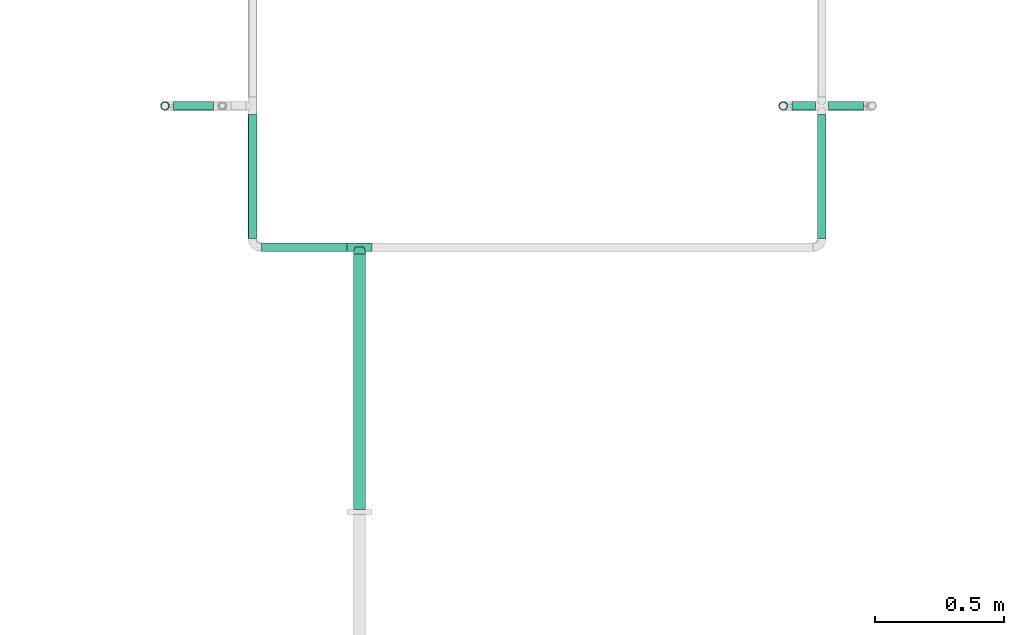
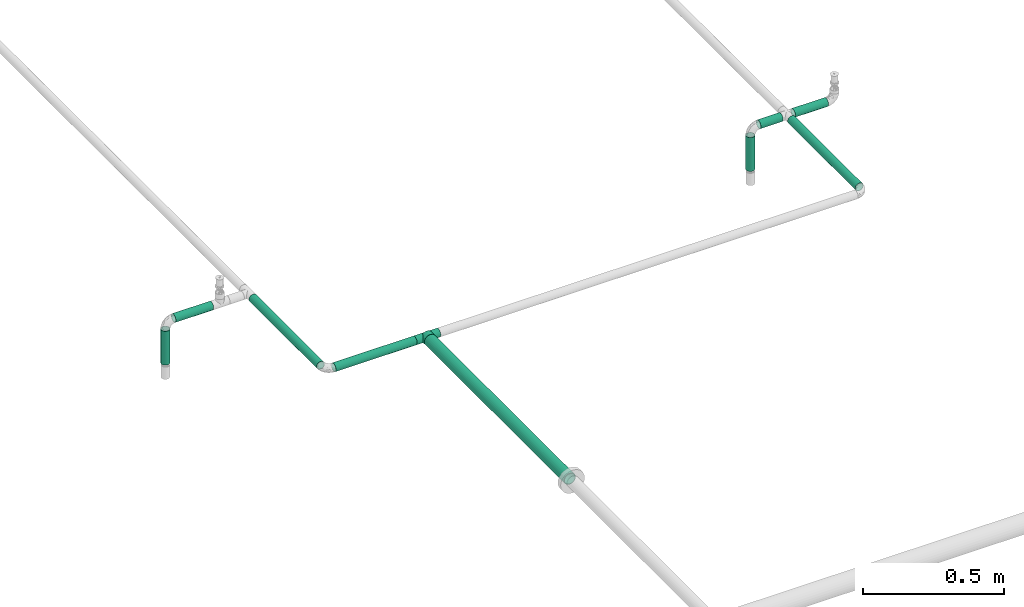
# One storey, part 23 of 157: 9 flow segments, 1 flow fitting.
"""IFC2X3 building model written with IfcOpenShell, lengths in millimetres."""

import ifcopenshell
import ifcopenshell.guid

model = None  # the IFC model being written
_history = None  # IfcOwnerHistory: only IFC2X3 demands one
_inside = {}  # id of a spatial element -> (the spatial element, [elements in it])
_under = {}  # id of a project, library or spatial element -> (it, [spatial elements below it])
_declared = {}  # id of a project -> (the project, [libraries it declares])
_typed = {}  # id of a type object -> (the type object, [elements of that type])
_made_of = {}  # id of a material, layer set ... -> (it, [elements and type objects made of it])


def new_model(schema):
    """Start an empty IFC model of exactly this schema.

    Asked for "IFC4X3", IfcOpenShell would pick the latest addendum, in which some entities
    have other attributes; the version numbers below select the first issue.
    IFC2X3 requires an IfcOwnerHistory on every rooted entity: one is made here for all.
    """
    global model, _history
    if schema == "IFC4X3":
        model = ifcopenshell.file(schema_version=(4, 3, 0, 0))
    else:
        model = ifcopenshell.file(schema=schema)
    _inside.clear()
    _under.clear()
    _declared.clear()
    _typed.clear()
    _made_of.clear()
    _history = None
    if model.schema == "IFC2X3":
        org = make("IfcOrganization", Name="unknown")
        user = make(
            "IfcPersonAndOrganization",
            ThePerson=make("IfcPerson", FamilyName="unknown"),
            TheOrganization=org,
        )
        app = make(
            "IfcApplication",
            ApplicationDeveloper=org,
            Version="unknown",
            ApplicationFullName="unknown",
            ApplicationIdentifier="unknown",
        )
        _history = make(
            "IfcOwnerHistory",
            OwningUser=user,
            OwningApplication=app,
            ChangeAction="ADDED",
            CreationDate=0,
        )
    return model


def make(cls, **values):
    """One entity of the class cls with the attributes given. An attribute that is None is left unset."""
    return model.create_entity(
        cls, **{name: value for name, value in values.items() if value is not None}
    )


def entity(cls, *values):
    """Any entity or typed value of the class cls, its attributes in the order of the schema. None: left unset."""
    e = model.create_entity(cls)
    for i, value in enumerate(values):
        if value is not None:
            e[i] = value
    return e


def rooted(cls, **values):
    """An entity with a GlobalId (a new one), such as an element, a storey or a relation."""
    return make(cls, GlobalId=ifcopenshell.guid.new(), OwnerHistory=_history, **values)


def si_unit(unit_type, name, prefix=None):
    """IfcSIUnit, for example si_unit("LENGTHUNIT", "METRE", prefix="MILLI")."""
    return make("IfcSIUnit", UnitType=unit_type, Prefix=prefix, Name=name)


def converted_unit(unit_type, name, factor, base, dimensions=None, offset=None):
    """IfcConversionBasedUnit, such as the inch: factor (a typed value) times the base unit."""
    return make(
        "IfcConversionBasedUnit"
        if offset is None
        else "IfcConversionBasedUnitWithOffset",
        ConversionOffset=offset,
        Dimensions=None
        if dimensions is None
        else entity("IfcDimensionalExponents", *dimensions),
        UnitType=unit_type,
        Name=name,
        ConversionFactor=make(
            "IfcMeasureWithUnit", ValueComponent=factor, UnitComponent=base
        ),
    )


def derived_unit(unit_type, elements):
    """IfcDerivedUnit: a product of units, each with its exponent."""
    return make(
        "IfcDerivedUnit",
        Elements=[
            make("IfcDerivedUnitElement", Unit=unit, Exponent=power)
            for unit, power in elements
        ],
        UnitType=unit_type,
    )


def assignment(units):
    """IfcUnitAssignment: the units of a project."""
    return None if units is None else make("IfcUnitAssignment", Units=units)


def point(xyz):
    """IfcCartesianPoint."""
    return None if xyz is None else make("IfcCartesianPoint", Coordinates=xyz)


def direction(xyz):
    """IfcDirection."""
    return None if xyz is None else make("IfcDirection", DirectionRatios=xyz)


def frame(location, z_axis=None, x_axis=None):
    """IfcAxis2Placement3D, a coordinate frame: its origin and axes. An axis left out is left unset."""
    return make(
        "IfcAxis2Placement3D",
        Location=point(location),
        Axis=direction(z_axis),
        RefDirection=direction(x_axis),
    )


def frame_2d(location, x_axis=None):
    """IfcAxis2Placement2D, a coordinate frame in the plane: its origin and x axis."""
    return make(
        "IfcAxis2Placement2D", Location=point(location), RefDirection=direction(x_axis)
    )


def origin_with_axes():
    """The frame at (0, 0, 0) with the z axis (0, 0, 1) and the x axis (1, 0, 0) written out."""
    return frame((0.0, 0.0, 0.0), z_axis=(0.0, 0.0, 1.0), x_axis=(1.0, 0.0, 0.0))


def origin_2d_with_axis():
    """The frame at (0, 0) in the plane with the x axis (1, 0) written out."""
    return frame_2d((0.0, 0.0), x_axis=(1.0, 0.0))


def place(relative_to, where):
    """IfcLocalPlacement: puts the frame where relative to a parent placement (None: the world)."""
    return make(
        "IfcLocalPlacement", PlacementRelTo=relative_to, RelativePlacement=where
    )


def context(
    kind, dimensions, precision=None, world=None, true_north=None, identifier=None
):
    """IfcGeometricRepresentationContext, for example the 3D "Model" context."""
    return make(
        "IfcGeometricRepresentationContext",
        ContextIdentifier=identifier,
        ContextType=kind,
        CoordinateSpaceDimension=dimensions,
        Precision=precision,
        WorldCoordinateSystem=world,
        TrueNorth=true_north,
    )


def subcontext(parent, identifier, kind, view, scale=None):
    """IfcGeometricRepresentationSubContext, for example "Body" below "Model"."""
    return make(
        "IfcGeometricRepresentationSubContext",
        ContextIdentifier=identifier,
        ContextType=kind,
        ParentContext=parent,
        TargetScale=scale,
        TargetView=view,
    )


def project(units=None, contexts=None):
    """IfcProject with its units and contexts."""
    return rooted(
        "IfcProject",
        Name="project",
        RepresentationContexts=contexts,
        UnitsInContext=assignment(units),
    )


def spatial(cls, under=None, at=None, **own):
    """A site, building, storey or space (cls), placed at a placement, below another one or the project."""
    s = rooted(cls, ObjectPlacement=at, **own)
    if under is not None:
        _under.setdefault(under.id(), (under, []))[1].append(s)
    return s


def profile(cls, at=None, kind="AREA", **sizes):
    """A parametric profile (cls). Its sizes go by their IFC names, for example OverallWidth=200.0."""
    return make(cls, ProfileType=kind, Position=at, **sizes)


def hollow_circle(**sizes):
    """IfcCircleHollowProfileDef."""
    return profile("IfcCircleHollowProfileDef", **sizes)


def extrude(swept, where, along, depth):
    """IfcExtrudedAreaSolid: the profile swept, set in the frame where, extruded along a direction by depth."""
    return make(
        "IfcExtrudedAreaSolid",
        SweptArea=swept,
        Position=where,
        ExtrudedDirection=direction(along),
        Depth=depth,
    )


def faces_of(points, faces, orient=None, outer=None):
    """IfcFace entities. A face is a list of loops; a loop is a list of indices into points, from 0.

    orient and outer hold one flag for each loop. By default every Orientation is true, the
    first loop of a face is its IfcFaceOuterBound and the others are IfcFaceBound.
    """
    made = []
    for i, loops in enumerate(faces):
        bounds = []
        for j, loop in enumerate(loops):
            is_outer = j == 0 if outer is None else outer[i][j]
            bounds.append(
                make(
                    "IfcFaceOuterBound" if is_outer else "IfcFaceBound",
                    Bound=make("IfcPolyLoop", Polygon=[points[k] for k in loop]),
                    Orientation=True if orient is None else orient[i][j],
                )
            )
        made.append(make("IfcFace", Bounds=bounds))
    return made


def open_shell(faces, orient=None, outer=None):
    """The faces of one IfcOpenShell. surface_model builds it on its shared points."""
    return ("IfcOpenShell", faces, orient, outer)


def surface_model(cls, points, shells):
    """IfcFaceBasedSurfaceModel or IfcShellBasedSurfaceModel (cls): surfaces that need not close."""
    shared = [point(p) for p in points]
    made = [make(c, CfsFaces=faces_of(shared, fs, o, b)) for c, fs, o, b in shells]
    if cls == "IfcFaceBasedSurfaceModel":
        return make(cls, FbsmFaces=made)
    return make(cls, SbsmBoundary=made)


def shape(context_of_items, identifier, shape_type, items):
    """IfcShapeRepresentation: the items that make up one representation, for example the "Body"."""
    return make(
        "IfcShapeRepresentation",
        ContextOfItems=context_of_items,
        RepresentationIdentifier=identifier,
        RepresentationType=shape_type,
        Items=items,
    )


def source(mapping_origin, context_of_items, identifier, shape_type, items):
    """IfcRepresentationMap: a shape defined once, which mapped items show again and again."""
    return make(
        "IfcRepresentationMap",
        MappingOrigin=mapping_origin,
        MappedRepresentation=shape(context_of_items, identifier, shape_type, items),
    )


def transform(
    local_origin,
    x_axis=None,
    y_axis=None,
    z_axis=None,
    scale=None,
    scale2=None,
    scale3=None,
    uniform=True,
):
    """IfcCartesianTransformationOperator3D, or its non-uniform kind. x_axis, y_axis, z_axis: its Axis1, 2, 3."""
    if uniform:
        return make(
            "IfcCartesianTransformationOperator3D",
            Axis1=direction(x_axis),
            Axis2=direction(y_axis),
            LocalOrigin=point(local_origin),
            Scale=scale,
            Axis3=direction(z_axis),
        )
    return make(
        "IfcCartesianTransformationOperator3DnonUniform",
        Axis1=direction(x_axis),
        Axis2=direction(y_axis),
        LocalOrigin=point(local_origin),
        Scale=scale,
        Axis3=direction(z_axis),
        Scale2=scale2,
        Scale3=scale3,
    )


def mapped(mapping_source, mapping_target):
    """IfcMappedItem: shows the shape of a source again, moved by a transform."""
    return make(
        "IfcMappedItem", MappingSource=mapping_source, MappingTarget=mapping_target
    )


def made_of(thing, what):
    """Note that an element or type object is made of a material, layer set ...; save() writes the relation."""
    if what is not None:
        _made_of.setdefault(what.id(), (what, []))[1].append(thing)
    return thing


def type_object(cls, material=None, **own):
    """A type object (cls), such as IfcWallType, which elements share."""
    return made_of(rooted(cls, **own), material)


def element(
    cls,
    number,
    at=None,
    inside=None,
    cuts=None,
    type_object=None,
    material=None,
    context=None,
    identifier="Body",
    shape_type=None,
    held_by="IfcProductDefinitionShape",
    body=None,
    shapes=None,
    **own,
):
    """One element of the class cls, such as IfcWall. Its Tag is "e" and its number.

    at: its placement. inside: the storey or other place that contains it. cuts: it is an
    opening in that element (IfcRelVoidsElement). A single representation is given by context,
    identifier, shape_type and body (its items); several are given by shapes. held_by: the class
    of the entity that holds the representations. save() writes the other relations.
    """
    e = rooted(cls, Tag="e%d" % number, ObjectPlacement=at, **own)
    if body is not None:
        shapes = [shape(context, identifier, shape_type, body)]
    if shapes is not None:
        e.Representation = make(held_by, Representations=shapes)
    if inside is not None:
        _inside.setdefault(inside.id(), (inside, []))[1].append(e)
    if cuts is not None:
        rooted(
            "IfcRelVoidsElement", RelatingBuildingElement=cuts, RelatedOpeningElement=e
        )
    if type_object is not None:
        _typed.setdefault(type_object.id(), (type_object, []))[1].append(e)
    return made_of(e, material)


def aggregate(whole, parts):
    """IfcRelAggregates: a whole, such as a stair, and the parts it consists of."""
    return rooted("IfcRelAggregates", RelatingObject=whole, RelatedObjects=parts)


def save(model, path):
    """Write the relations noted so far, then the file.

    IfcRelAggregates (storeys below a building ...), IfcRelContainedInSpatialStructure (elements
    in a storey), IfcRelDefinesByType, IfcRelAssociatesMaterial and IfcRelDeclares: one each for
    every whole, place, type object, material and project.
    """
    for whole, parts in _under.values():
        aggregate(whole, parts)
    for where, things in _inside.values():
        rooted(
            "IfcRelContainedInSpatialStructure",
            RelatedElements=things,
            RelatingStructure=where,
        )
    for kind, things in _typed.values():
        rooted("IfcRelDefinesByType", RelatedObjects=things, RelatingType=kind)
    for what, things in _made_of.values():
        rooted("IfcRelAssociatesMaterial", RelatedObjects=things, RelatingMaterial=what)
    for by, libraries in _declared.values():
        rooted("IfcRelDeclares", RelatingContext=by, RelatedDefinitions=libraries)
    model.write(path)


model = new_model("IFC2X3")

# Units and contexts
model_context = context("Model", 3, precision=0.01, world=frame((0.0, 4.29681676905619e-09, 0.0)), true_north=direction((4.01073788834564e-13, 1.0)))
plan_context = context("Plan", 3, precision=0.01, world=frame((0.0, 4.29681676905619e-09, 0.0)), true_north=direction((4.01073788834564e-13, 1.0)))
body_context = subcontext(model_context, "Body", "Model", "MODEL_VIEW")
ifc_project = project(units=[converted_unit("PLANEANGLEUNIT", "DEGREE", entity("IfcPositiveLengthMeasure", 0.0174532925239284), si_unit("PLANEANGLEUNIT", "RADIAN"), dimensions=[0, 0, 0, 0, 0, 0, 0]), si_unit("AREAUNIT", "SQUARE_METRE"), si_unit("LENGTHUNIT", "METRE", prefix="MILLI"), si_unit("MASSUNIT", "GRAM", prefix="KILO"), si_unit("POWERUNIT", "WATT"), si_unit("PRESSUREUNIT", "PASCAL"), si_unit("FORCEUNIT", "NEWTON", prefix="KILO"), si_unit("ELECTRICCURRENTUNIT", "AMPERE"), si_unit("THERMODYNAMICTEMPERATUREUNIT", "DEGREE_CELSIUS"), si_unit("TIMEUNIT", "SECOND"), si_unit("VOLUMEUNIT", "CUBIC_METRE"), derived_unit("LINEARVELOCITYUNIT", [(si_unit("LENGTHUNIT", "METRE"), 1), (si_unit("TIMEUNIT", "SECOND"), -1)]), derived_unit("VOLUMETRICFLOWRATEUNIT", [(si_unit("VOLUMEUNIT", "CUBIC_METRE"), 1), (si_unit("TIMEUNIT", "SECOND"), -1)]), derived_unit("THERMALTRANSMITTANCEUNIT", [(si_unit("POWERUNIT", "WATT"), 1), (si_unit("THERMODYNAMICTEMPERATUREUNIT", "KELVIN"), -1), (si_unit("AREAUNIT", "SQUARE_METRE"), -1)])], contexts=[model_context, plan_context])

# Site, building, storey
site_placement = place(None, frame((0.0, -4.29681676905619e-09, 0.0), z_axis=(0.0, 0.0, 1.0), x_axis=(1.0, 0.0, 0.0)))
site = spatial("IfcSite", under=ifc_project, at=site_placement, CompositionType="ELEMENT")
building_placement = place(site_placement, frame((0.0, 4.29681676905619e-09, 0.0), z_axis=(0.0, 0.0, 1.0), x_axis=(1.0, 0.0, 0.0)))
building = spatial("IfcBuilding", under=site, at=building_placement, Name="mc-building", CompositionType="ELEMENT")
storey_placement = place(building_placement, frame((0.0, 0.0, 204000.0), z_axis=(0.0, 0.0, 1.0), x_axis=(1.0, 0.0, 0.0)))
storey = spatial("IfcBuildingStorey", under=building, at=storey_placement, Name="Nivå D", CompositionType="ELEMENT", Elevation=204000.0)

# Flow fitting
pipe_fitting_type = type_object("IfcPipeFittingType", Name="magi_pipe_fe_tee_centric_90_NOR", PredefinedType="JUNCTION")
shared_shape_1 = source(origin_with_axes(), body_context, "Body", "SurfaceModel", [
    surface_model("IfcShellBasedSurfaceModel", [(-48.4, 4.37404, -16.32415), (-48.4, 0.0, -16.9), (-48.4, 16.32415, -4.37404), (-48.4, 8.45, -14.63583), (-48.4, 11.9501, -11.9501), (-48.4, 14.63583, -8.45), (-48.4, -16.9, 0.0), (-48.4, -11.9501, -11.9501), (-48.4, -14.63583, -8.45), (-48.4, -8.45, -14.63583), (-48.4, -4.37404, -16.32415), (-48.4, -16.32415, -4.37404), (-48.4, -8.45, 14.63583), (-48.4, 14.63583, 8.45), (-48.4, 16.32415, 4.37404), (-48.4, 8.45, 14.63583), (-48.4, 11.9501, 11.9501), (-48.4, 4.37404, 16.32415), (-48.4, -11.9501, 11.9501), (-48.4, -14.63583, 8.45), (-48.4, -16.32415, 4.37404), (-48.4, -4.37404, 16.32415), (-48.4, 0.0, 16.9), (-48.4, 16.9, 0.0), (48.4, 4.37404, -16.32415), (48.4, -16.9, 0.0), (48.4, 0.0, -16.9), (48.4, 11.9501, -11.9501), (48.4, 8.45, -14.63583), (48.4, 14.63583, -8.45), (48.4, 16.32415, -4.37404), (48.4, -11.9501, -11.9501), (48.4, -8.45, -14.63583), (48.4, -4.37404, -16.32415), (48.4, -14.63583, -8.45), (48.4, -16.32415, -4.37404), (48.4, 16.32415, 4.37404), (48.4, 8.45, 14.63583), (48.4, 14.63583, 8.45), (48.4, -16.32415, 4.37404), (48.4, 11.9501, 11.9501), (48.4, -8.45, 14.63583), (48.4, 4.37404, 16.32415), (48.4, -14.63583, 8.45), (48.4, -11.9501, 11.9501), (48.4, 0.0, 16.9), (48.4, -4.37404, 16.32415), (48.4, 16.9, 0.0), (23.88418, -16.44457, 3.89692), (48.4, -15.47999, 6.41202), (23.00671, -15.14195, 7.50542), (23.44544, -15.79326, 5.70117), (24.2, -16.9, 0.0), (20.27443, -10.53672, 13.21315), (48.4, -10.20005, 13.29297), (21.73564, -13.13043, 10.63963), (48.4, -13.29297, 10.20005), (21.00504, -11.83358, 11.92639), (22.37118, -14.13619, 9.07253), (-23.00671, -15.14195, 7.50542), (-22.37118, -14.13619, 9.07253), (-48.4, -15.47999, 6.41202), (-23.44544, -15.79326, 5.70117), (-24.2, -16.9, 0.0), (-23.88418, -16.44457, 3.89692), (18.85043, -7.43699, 15.17568), (48.4, -6.41202, 15.47999), (-21.00504, -11.83358, 11.92639), (-20.27443, -10.53672, 13.21315), (-18.85043, -7.43699, 15.17568), (-48.4, -13.29297, 10.20005), (-48.4, -10.20005, 13.29297), (-48.4, -6.41202, 15.47999), (-21.73564, -13.13043, 10.63963), (17.75071, -3.88043, 16.44847), (17.32137, 0.0, 16.9), (-17.32137, 0.0, 16.9), (-17.75071, -3.88043, 16.44847), (-48.4, -15.47999, -6.41202), (-23.00671, -15.14195, -7.50542), (-23.44544, -15.79326, -5.70117), (17.75071, -3.88043, -16.44847), (17.32137, 0.0, -16.9), (-22.37118, -14.13619, -9.07253), (-48.4, -13.29297, -10.20005), (-21.73564, -13.13043, -10.63963), (-18.85043, -7.43699, -15.17568), (-48.4, -6.41202, -15.47999), (-17.32137, 0.0, -16.9), (23.44544, -15.79326, -5.70117), (48.4, -15.47999, -6.41202), (-17.75071, -3.88043, -16.44847), (-23.88418, -16.44457, -3.89692), (-20.27443, -10.53672, -13.21315), (-48.4, -10.20005, -13.29297), (48.4, -6.41202, -15.47999), (22.37118, -14.13619, -9.07253), (48.4, -13.29297, -10.20005), (20.27443, -10.53672, -13.21315), (48.4, -10.20005, -13.29297), (21.00504, -11.83358, -11.92639), (23.00671, -15.14195, -7.50542), (18.85043, -7.43699, -15.17568), (21.73564, -13.13043, -10.63963), (23.88418, -16.44457, -3.89692), (-21.00504, -11.83358, -11.92639), (0.0, -25.35, -24.2), (6.26342, -25.35, -23.37541), (12.1, -25.35, -20.95781), (12.1, -25.35, 20.95781), (17.11198, -25.35, -17.11198), (20.95781, -25.35, -12.1), (23.37541, -25.35, -6.26342), (-12.1, -25.35, -20.95781), (-20.95781, -25.35, -12.1), (-17.11198, -25.35, -17.11198), (-6.26342, -25.35, -23.37541), (-23.37541, -25.35, -6.26342), (-24.2, -25.35, 0.0), (24.2, -25.35, 0.0), (23.37541, -25.35, 6.26342), (20.95781, -25.35, 12.1), (-23.37541, -25.35, 6.26342), (17.11198, -25.35, 17.11198), (6.26342, -25.35, 23.37541), (-17.11198, -25.35, 17.11198), (-20.95781, -25.35, 12.1), (-12.1, -25.35, 20.95781), (0.0, -25.35, 24.2), (-6.26342, -25.35, 23.37541), (-23.7877, -25.35, 3.13171), (-13.05143, 0.0, 20.37892), (-8.10841, 0.0, 22.80118), (-2.74697, 0.0, 24.04359), (2.75572, 0.0, 24.04259), (8.11548, 0.0, 22.79866), (13.05561, 0.0, 20.37623), (23.7877, -25.35, 3.13171), (23.7877, -25.35, -3.13171), (13.05561, 0.0, -20.37623), (8.11548, 0.0, -22.79866), (2.75572, 0.0, -24.04259), (-23.7877, -25.35, -3.13171), (-8.10841, 0.0, -22.80118), (-13.05143, 0.0, -20.37892), (-2.74697, 0.0, -24.04359)], [open_shell([[[0, 1, 2]], [[3, 0, 4]], [[0, 2, 5]], [[4, 0, 5]], [[6, 2, 1]], [[7, 8, 9]], [[1, 10, 9]], [[11, 6, 8]], [[1, 9, 8]], [[1, 8, 6]], [[6, 12, 2]], [[13, 14, 2]], [[2, 15, 13]], [[2, 12, 15]], [[16, 13, 15]], [[12, 17, 15]], [[18, 12, 19]], [[20, 19, 12]], [[21, 22, 12]], [[12, 6, 20]], [[12, 22, 17]], [[23, 2, 14]], [[24, 25, 26]], [[27, 24, 28]], [[29, 30, 24]], [[29, 24, 27]], [[25, 24, 30]], [[26, 31, 32]], [[32, 33, 26]], [[34, 25, 35]], [[31, 26, 34]], [[25, 34, 26]], [[30, 36, 25]], [[25, 36, 37]], [[37, 36, 38]], [[37, 39, 25]], [[37, 38, 40]], [[41, 37, 42]], [[43, 41, 44]], [[41, 43, 39]], [[41, 45, 46]], [[41, 39, 37]], [[42, 45, 41]], [[30, 47, 36]], [[25, 39, 48]], [[49, 50, 51]], [[48, 52, 25]], [[39, 49, 51]], [[53, 44, 54]], [[49, 43, 50]], [[54, 41, 53]], [[44, 55, 56]], [[55, 44, 57]], [[39, 51, 48]], [[43, 58, 50]], [[19, 59, 60]], [[44, 53, 57]], [[59, 61, 62]], [[20, 62, 61]], [[63, 64, 6]], [[6, 64, 20]], [[20, 64, 62]], [[65, 41, 66]], [[18, 67, 68]], [[58, 56, 55]], [[56, 58, 43]], [[12, 68, 69]], [[70, 19, 60]], [[18, 68, 71]], [[69, 72, 12]], [[70, 60, 73]], [[18, 73, 67]], [[53, 41, 65]], [[74, 45, 75]], [[66, 74, 65]], [[74, 66, 46]], [[74, 46, 45]], [[73, 18, 70]], [[75, 45, 42]], [[38, 36, 14]], [[16, 37, 40]], [[13, 40, 38]], [[42, 37, 15]], [[23, 36, 47]], [[22, 76, 17]], [[68, 12, 71]], [[21, 77, 22]], [[72, 77, 21]], [[22, 77, 76]], [[76, 75, 17]], [[77, 72, 69]], [[42, 17, 75]], [[15, 17, 42]], [[15, 37, 16]], [[13, 16, 40]], [[14, 13, 38]], [[36, 23, 14]], [[59, 19, 61]], [[78, 79, 80]], [[27, 4, 29]], [[5, 30, 29]], [[3, 27, 28]], [[23, 47, 30]], [[26, 33, 81]], [[26, 82, 24]], [[82, 26, 81]], [[83, 84, 85]], [[28, 24, 0]], [[86, 9, 87]], [[82, 88, 24]], [[35, 89, 90]], [[2, 30, 5]], [[3, 4, 27]], [[5, 29, 4]], [[23, 30, 2]], [[1, 88, 91]], [[11, 80, 92]], [[93, 7, 94]], [[91, 86, 87]], [[88, 1, 0]], [[1, 91, 10]], [[87, 10, 91]], [[0, 3, 28]], [[88, 0, 24]], [[33, 95, 81]], [[34, 96, 97]], [[31, 98, 99]], [[98, 31, 100]], [[101, 34, 90]], [[32, 98, 102]], [[96, 103, 97]], [[35, 25, 104]], [[84, 83, 8]], [[101, 90, 89]], [[52, 104, 25]], [[31, 103, 100]], [[89, 35, 104]], [[93, 9, 86]], [[98, 32, 99]], [[93, 94, 9]], [[7, 105, 85]], [[7, 85, 84]], [[103, 31, 97]], [[81, 95, 102]], [[34, 101, 96]], [[7, 93, 105]], [[92, 63, 6]], [[11, 78, 80]], [[79, 78, 8]], [[11, 92, 6]], [[79, 8, 83]], [[32, 102, 95]], [[106, 107, 108]], [[109, 106, 108]], [[110, 111, 112]], [[110, 112, 108]], [[109, 113, 106]], [[113, 114, 115]], [[113, 116, 106]], [[113, 117, 114]], [[117, 113, 118]], [[113, 109, 118]], [[119, 108, 112]], [[119, 120, 121]], [[119, 121, 109]], [[109, 122, 118]], [[109, 121, 123]], [[122, 109, 124]], [[122, 125, 126]], [[122, 124, 125]], [[127, 128, 129]], [[128, 127, 125]], [[124, 128, 125]], [[109, 108, 119]], [[130, 122, 64]], [[63, 118, 130]], [[64, 122, 59]], [[126, 125, 68]], [[125, 127, 131]], [[122, 126, 59]], [[132, 127, 129]], [[59, 126, 73]], [[68, 125, 69]], [[126, 68, 73]], [[77, 125, 131]], [[132, 131, 127]], [[77, 131, 76]], [[69, 125, 77]], [[132, 129, 133]], [[129, 128, 133]], [[124, 134, 128]], [[109, 135, 124]], [[63, 130, 64]], [[123, 136, 109]], [[119, 52, 137]], [[121, 120, 50]], [[137, 52, 48]], [[123, 121, 53]], [[48, 120, 137]], [[48, 50, 120]], [[74, 75, 136]], [[136, 135, 109]], [[135, 134, 124]], [[53, 121, 55]], [[74, 136, 123]], [[123, 65, 74]], [[123, 53, 65]], [[121, 50, 55]], [[128, 134, 133]], [[138, 112, 104]], [[52, 119, 138]], [[104, 112, 101]], [[111, 110, 98]], [[110, 108, 139]], [[112, 111, 101]], [[140, 108, 107]], [[101, 111, 103]], [[98, 110, 102]], [[111, 98, 103]], [[81, 110, 139]], [[140, 139, 108]], [[81, 139, 82]], [[102, 110, 81]], [[140, 107, 141]], [[107, 106, 141]], [[92, 117, 142]], [[143, 116, 113]], [[52, 138, 104]], [[113, 115, 144]], [[145, 106, 116]], [[118, 63, 142]], [[114, 117, 79]], [[142, 63, 92]], [[115, 114, 93]], [[92, 79, 117]], [[145, 116, 143]], [[91, 88, 144]], [[143, 113, 144]], [[93, 114, 85]], [[91, 144, 115]], [[115, 86, 91]], [[115, 93, 86]], [[114, 79, 85]], [[106, 145, 141]], [[75, 76, 133]], [[76, 131, 132]], [[133, 136, 75]], [[133, 134, 135]], [[133, 76, 132]], [[135, 136, 133]], [[144, 141, 145]], [[145, 143, 144]], [[140, 141, 82]], [[141, 144, 82]], [[82, 144, 88]], [[139, 140, 82]]])]),
])
flow_fitting_placement = place(storey_placement, frame((522583.28905, 418357.40385, 2689.95572999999), z_axis=(0.0, -1.5999999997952e-05, -0.999999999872), x_axis=(-1.0, 0.0, 0.0)))
element("IfcFlowFitting", 1, at=flow_fitting_placement, inside=storey, type_object=pipe_fitting_type, Name="magi_pipe_fe_tee_centric_90_NOR", context=body_context, shape_type="MappedRepresentation", body=[
    mapped(shared_shape_1, transform((0.0, 0.0, 0.0), scale=1.0)),
])

# Flow segments
pipe_segment_type = type_object("IfcPipeSegmentType", Name="Stålrør normaltykke", PredefinedType="RIGIDSEGMENT")
shared_shape_2 = source(origin_with_axes(), body_context, "Body", "SweptSolid", [
    extrude(hollow_circle(Radius=16.9, WallThickness=2.0, at=origin_2d_with_axis()), frame((0.0, 0.0, 0.0), z_axis=(1.0, 0.0, 0.0), x_axis=(0.0, 1.0, 0.0)), (0.0, 0.0, 1.0), 480.8),
])
for number, where, z_axis, x_axis in (
    (2, (522168.12782, 418871.97171, 2689.95572999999), (0.0, 0.0, 1.0), (0.0, -1.0, 0.0)),
    (3, (524377.48821, 418391.20385, 2689.95572999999), (0.0, 0.0, 1.0), (0.0, 1.0, 0.0)),
):
    element("IfcFlowSegment", number, at=place(storey_placement, frame(where, z_axis=z_axis, x_axis=x_axis)), inside=storey, type_object=pipe_segment_type, Name="Stålrør normaltykke", context=body_context, shape_type="MappedRepresentation", body=[
        mapped(shared_shape_2, transform((0.0, 0.0, 0.0), scale=1.0)),
    ])
shared_shape_3 = source(origin_with_axes(), body_context, "Body", "SweptSolid", [
    extrude(hollow_circle(Radius=16.9, WallThickness=2.0, at=origin_2d_with_axis()), frame((0.0, 0.0, 0.0), z_axis=(1.0, 0.0, 0.0), x_axis=(0.0, 1.0, 0.0)), (0.0, 0.0, 1.0), 333.0),
])
flow_segment_1_placement = place(storey_placement, frame((522201.92782, 418357.40385, 2689.95572999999), z_axis=(0.0, 0.0, 1.0), x_axis=(1.0, 0.0, 0.0)))
element("IfcFlowSegment", 4, at=flow_segment_1_placement, inside=storey, type_object=pipe_segment_type, Name="Stålrør normaltykke", context=body_context, shape_type="MappedRepresentation", body=[
    mapped(shared_shape_3, transform((0.0, 0.0, 0.0), scale=1.0)),
])
shared_shape_4 = source(origin_with_axes(), body_context, "Body", "SweptSolid", [
    extrude(hollow_circle(Radius=16.9, WallThickness=2.0, at=origin_2d_with_axis()), frame((0.0, 0.0, 0.0), z_axis=(1.0, 0.0, 0.0), x_axis=(0.0, 1.0, 0.0)), (0.0, 0.0, 1.0), 146.8),
])
for number, where, z_axis, x_axis in (
    (5, (524227.48821, 418905.77171, 2656.19028000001), (0.0, 1.0, 0.0), (0.0, 0.0, -1.0)),
    (6, (521828.12782, 418905.77171, 2656.15573), (0.0, 1.0, 0.0), (0.0, 0.0, -1.0)),
):
    element("IfcFlowSegment", number, at=place(storey_placement, frame(where, z_axis=z_axis, x_axis=x_axis)), inside=storey, type_object=pipe_segment_type, Name="Stålrør normaltykke", context=body_context, shape_type="MappedRepresentation", body=[
        mapped(shared_shape_4, transform((0.0, 0.0, 0.0), scale=1.0)),
    ])
shared_shape_5 = source(origin_with_axes(), body_context, "Body", "SweptSolid", [
    extrude(hollow_circle(Radius=16.9, WallThickness=2.0, at=origin_2d_with_axis()), frame((0.0, 0.0, 0.0), z_axis=(1.0, 0.0, 0.0), x_axis=(0.0, 1.0, 0.0)), (0.0, 0.0, 1.0), 90.8),
])
flow_segment_2_placement = place(storey_placement, frame((524261.29792, 418905.77171, 2689.99028), z_axis=(0.000286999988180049, 0.0, 0.999999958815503), x_axis=(0.999999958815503, 0.0, -0.000286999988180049)))
element("IfcFlowSegment", 7, at=flow_segment_2_placement, inside=storey, type_object=pipe_segment_type, Name="Stålrør normaltykke", context=body_context, shape_type="MappedRepresentation", body=[
    mapped(shared_shape_5, transform((0.0, 0.0, 0.0), scale=1.0)),
])
shared_shape_6 = source(origin_with_axes(), body_context, "Body", "SweptSolid", [
    extrude(hollow_circle(Radius=16.9, WallThickness=2.0, at=origin_2d_with_axis()), frame((0.0, 0.0, 0.0), z_axis=(1.0, 0.0, 0.0), x_axis=(0.0, 1.0, 0.0)), (0.0, 0.0, 1.0), 155.0),
])
flow_segment_3_placement = place(storey_placement, frame((521861.92782, 418905.77171, 2689.95572999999), z_axis=(0.0, 0.0, 1.0), x_axis=(1.0, 0.0, 0.0)))
element("IfcFlowSegment", 8, at=flow_segment_3_placement, inside=storey, type_object=pipe_segment_type, Name="Stålrør normaltykke", context=body_context, shape_type="MappedRepresentation", body=[
    mapped(shared_shape_6, transform((0.0, 0.0, 0.0), scale=1.0)),
])
shared_shape_7 = source(origin_with_axes(), body_context, "Body", "SweptSolid", [
    extrude(hollow_circle(Radius=16.9, WallThickness=2.0, at=origin_2d_with_axis()), frame((0.0, 0.0, 0.0), z_axis=(1.0, 0.0, 0.0), x_axis=(0.0, 1.0, 0.0)), (0.0, 0.0, 1.0), 135.9),
])
flow_segment_4_placement = place(storey_placement, frame((524402.83821, 418905.77171, 2689.94845), z_axis=(0.000385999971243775, 0.0, 0.999999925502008), x_axis=(0.999999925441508, 1.09999991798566e-05, -0.000385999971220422)))
element("IfcFlowSegment", 9, at=flow_segment_4_placement, inside=storey, type_object=pipe_segment_type, Name="Stålrør normaltykke", context=body_context, shape_type="MappedRepresentation", body=[
    mapped(shared_shape_7, transform((0.0, 0.0, 0.0), scale=1.0)),
])
shared_shape_8 = source(origin_with_axes(), body_context, "Body", "SweptSolid", [
    extrude(hollow_circle(Radius=24.1, WallThickness=2.0, at=origin_2d_with_axis()), frame((0.0, 0.0, 0.0), z_axis=(1.0, 0.0, 0.0), x_axis=(0.0, 1.0, 0.0)), (0.0, 0.0, 1.0), 991.9),
])
flow_segment_5_placement = place(storey_placement, frame((522583.28905, 417340.18056, 2689.97795), z_axis=(0.0, 1.49999999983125e-05, 0.9999999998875), x_axis=(0.0, 0.9999999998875, -1.49999999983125e-05)))
element("IfcFlowSegment", 10, at=flow_segment_5_placement, inside=storey, type_object=pipe_segment_type, Name="Stålrør normaltykke", context=body_context, shape_type="MappedRepresentation", body=[
    mapped(shared_shape_8, transform((0.0, 0.0, 0.0), scale=1.0)),
])

save(model, "model.ifc")
